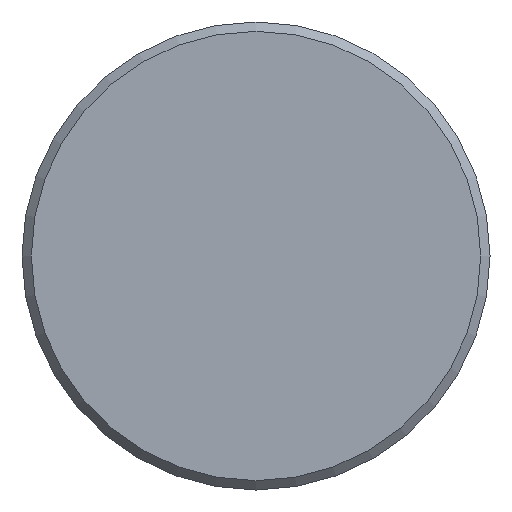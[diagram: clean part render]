
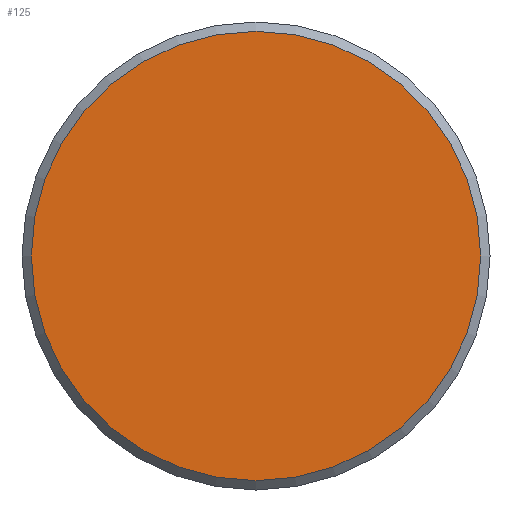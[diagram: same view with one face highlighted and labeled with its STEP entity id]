
A CAD part, front view. The second image highlights one B-rep face of the part: STEP entity #125.
In plain terms, the highlighted planar face has unit normal (0, -1, 0).
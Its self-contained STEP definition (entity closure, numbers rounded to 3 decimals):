
#19=PLANE('',#158);
#29=FACE_OUTER_BOUND('',#39,.T.);
#39=EDGE_LOOP('',(#110));
#58=CIRCLE('',#154,12.);
#67=VERTEX_POINT('',#227);
#79=EDGE_CURVE('',#67,#67,#58,.T.);
#110=ORIENTED_EDGE('',*,*,#79,.F.);
#125=ADVANCED_FACE('',(#29),#19,.F.);
#154=AXIS2_PLACEMENT_3D('',#228,#190,#191);
#158=AXIS2_PLACEMENT_3D('',#236,#200,#201);
#190=DIRECTION('center_axis',(0.,1.,0.));
#191=DIRECTION('ref_axis',(-1.,0.,0.));
#200=DIRECTION('center_axis',(0.,1.,0.));
#201=DIRECTION('ref_axis',(-1.,0.,0.));
#227=CARTESIAN_POINT('',(12.,-75.,0.));
#228=CARTESIAN_POINT('Origin',(0.,-75.,0.));
#236=CARTESIAN_POINT('Origin',(0.,-75.,0.));
